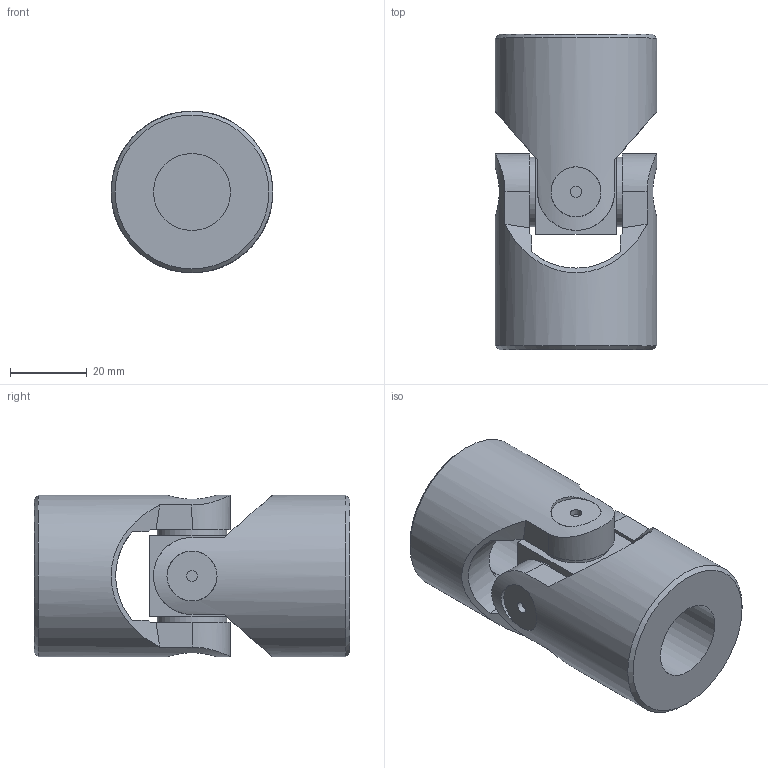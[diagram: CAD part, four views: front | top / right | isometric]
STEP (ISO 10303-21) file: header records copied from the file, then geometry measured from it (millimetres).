
FILE_DESCRIPTION(/* description */ ('EXTENSIBLE TRANSIMISSIONS Series G DIN 808 -2-'),/* implementation_level */ '2;1');
FILE_NAME(/* name */ '\\SRV2016\societa\Stefano\Disegni 3D\Dis. Clienti\0000Catalogo 3D\01Singoli G-GB\SG0S2000.stp',/* time_stamp */ '2021-11-08T17:24:13+01:00',/* author */ ('acquisti'),/* organization */ ('MARIOFERRI'),/* preprocessor_version */ 'ST-DEVELOPER v15.6',/* originating_system */ 'Autodesk Inventor 2015',/* authorisation */ '');
FILE_SCHEMA (('AUTOMOTIVE_DESIGN { 1 0 10303 214 3 1 1 }'));
Length unit declared in the file: millimetre
Products named in the file (3): 3G SFE; 3G MOS; Assieme3
Assembly tree (3 placements, depth 2):
  Assieme3
    3G SFE
    3G MOS  x2
Bounding box: 42 x 82 x 42 mm (x, y, z)
Volume: 77197.4 mm3; surface area: 21694 mm2
Topology: 3 solids, 3 shells, 84 faces, 194 edges, 126 vertices
Faces by surface type: plane 36, cylinder 34, cone 12, torus 2
Full cylindrical faces by diameter (mm): 3 x4, 18 x4, 20 x2, 22 x2, 42 x2
Entity records: 1551 total; most frequent: CARTESIAN_POINT 482, DIRECTION 208, ORIENTED_EDGE 192, EDGE_CURVE 96, AXIS2_PLACEMENT_3D 92, EDGE_LOOP 70, VERTEX_POINT 70, FACE_OUTER_BOUND 49
